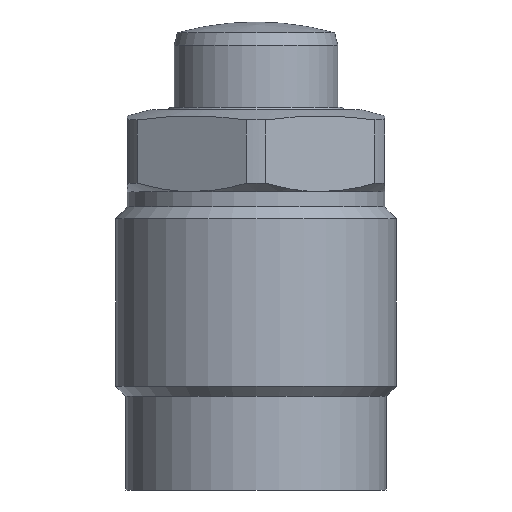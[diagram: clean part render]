
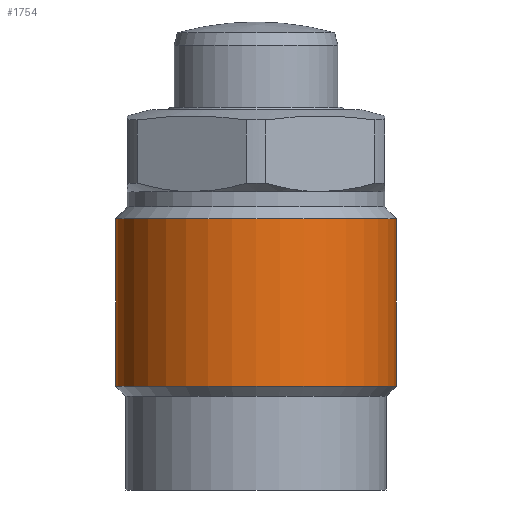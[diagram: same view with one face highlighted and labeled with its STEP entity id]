
A CAD part, front view. The second image highlights one B-rep face of the part: STEP entity #1754.
In plain terms, the highlighted cylindrical face has radius 12 mm (diameter 24 mm), a partial arc.
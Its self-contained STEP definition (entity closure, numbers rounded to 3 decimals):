
#49 = EDGE_CURVE ( 'NONE', #1820, #1893, #1528, .T. ) ;
#50 = EDGE_CURVE ( 'NONE', #1896, #1895, #1533, .T. ) ;
#163 = AXIS2_PLACEMENT_3D ( 'NONE', #405, #402, #408 ) ;
#282 = EDGE_CURVE ( 'NONE', #1820, #1896, #2140, .T. ) ;
#283 = EDGE_CURVE ( 'NONE', #1893, #1895, #2142, .T. ) ;
#402 = DIRECTION ( 'NONE',  ( 0., 0., 1. ) ) ;
#404 = FACE_OUTER_BOUND ( 'NONE', #1993, .T. ) ;
#405 = CARTESIAN_POINT ( 'NONE',  ( 0., 0., 4.2 ) ) ;
#407 = CYLINDRICAL_SURFACE ( 'NONE', #163, 12. ) ;
#408 = DIRECTION ( 'NONE',  ( 1., 0., 0. ) ) ;
#885 = ORIENTED_EDGE ( 'NONE', *, *, #49, .F. ) ;
#886 = ORIENTED_EDGE ( 'NONE', *, *, #282, .T. ) ;
#887 = ORIENTED_EDGE ( 'NONE', *, *, #50, .T. ) ;
#888 = ORIENTED_EDGE ( 'NONE', *, *, #283, .F. ) ;
#1298 = CARTESIAN_POINT ( 'NONE',  ( -12., 0., -23.65 ) ) ;
#1299 = CARTESIAN_POINT ( 'NONE',  ( -12., 0., -9.3 ) ) ;
#1319 = CARTESIAN_POINT ( 'NONE',  ( 12., 0., -9.3 ) ) ;
#1331 = CARTESIAN_POINT ( 'NONE',  ( 12., 0., -23.65 ) ) ;
#1526 = CARTESIAN_POINT ( 'NONE',  ( -12., 0., 4.2 ) ) ;
#1528 = LINE ( 'NONE', #1526, #2122 ) ;
#1532 = DIRECTION ( 'NONE',  ( 0., 0., 1. ) ) ;
#1533 = LINE ( 'NONE', #1535, #2125 ) ;
#1535 = CARTESIAN_POINT ( 'NONE',  ( 12., 0., 4.2 ) ) ;
#1536 = DIRECTION ( 'NONE',  ( 0., 0., 1. ) ) ;
#1576 = CARTESIAN_POINT ( 'NONE',  ( 0., 0., -23.65 ) ) ;
#1577 = DIRECTION ( 'NONE',  ( 0., 0., 1. ) ) ;
#1578 = DIRECTION ( 'NONE',  ( 1., 0., 0. ) ) ;
#1579 = CARTESIAN_POINT ( 'NONE',  ( 0., 0., -9.3 ) ) ;
#1580 = DIRECTION ( 'NONE',  ( 0., 0., 1. ) ) ;
#1581 = DIRECTION ( 'NONE',  ( 1., 0., 0. ) ) ;
#1754 = ADVANCED_FACE ( 'NONE', ( #404 ), #407, .T. ) ;
#1820 = VERTEX_POINT ( 'NONE', #1298 ) ;
#1893 = VERTEX_POINT ( 'NONE', #1299 ) ;
#1895 = VERTEX_POINT ( 'NONE', #1319 ) ;
#1896 = VERTEX_POINT ( 'NONE', #1331 ) ;
#1993 = EDGE_LOOP ( 'NONE', ( #885, #886, #887, #888 ) ) ;
#2122 = VECTOR ( 'NONE', #1532, 1000. ) ;
#2125 = VECTOR ( 'NONE', #1536, 1000. ) ;
#2140 = CIRCLE ( 'NONE', #2143, 12. ) ;
#2142 = CIRCLE ( 'NONE', #2145, 12. ) ;
#2143 = AXIS2_PLACEMENT_3D ( 'NONE', #1576, #1577, #1578 ) ;
#2145 = AXIS2_PLACEMENT_3D ( 'NONE', #1579, #1580, #1581 ) ;
